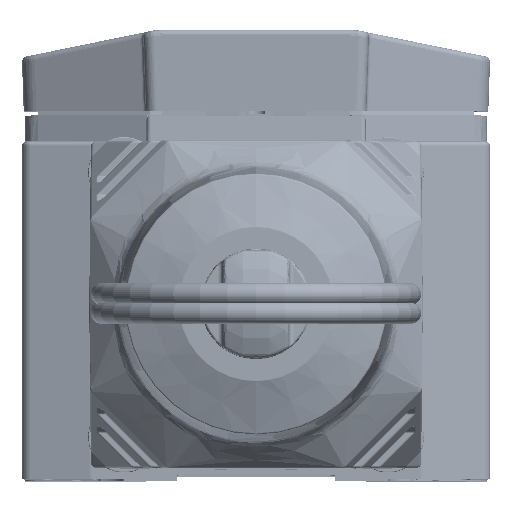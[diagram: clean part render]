
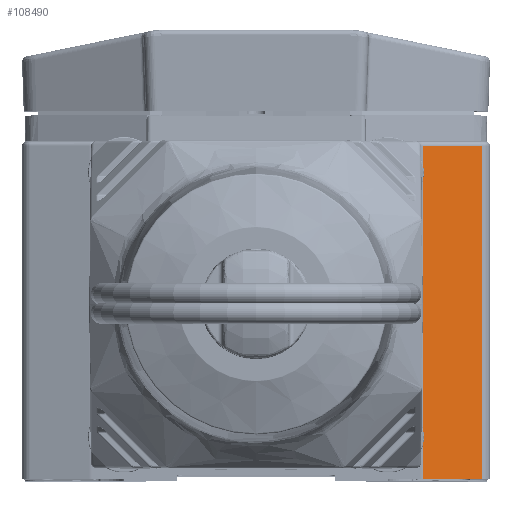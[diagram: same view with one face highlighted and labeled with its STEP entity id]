
A CAD part, top view. The second image highlights one B-rep face of the part: STEP entity #108490.
In plain terms, the highlighted planar face has unit normal (0.259, 0, 0.966).
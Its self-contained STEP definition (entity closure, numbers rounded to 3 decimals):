
#16948=DIRECTION('',(-0.966,0.,0.259));
#16949=VECTOR('',#16948,5.561);
#16950=CARTESIAN_POINT('',(20.499,-15.85,-1.473));
#16951=LINE('',#16950,#16949);
#19816=DIRECTION('',(0.966,0.,-0.259));
#19817=VECTOR('',#19816,5.561);
#19818=CARTESIAN_POINT('',(15.127,14.45,-0.034));
#19819=LINE('',#19818,#19817);
#19823=DIRECTION('',(0.,-1.,0.));
#19824=VECTOR('',#19823,30.3);
#19825=CARTESIAN_POINT('',(20.499,14.45,-1.473));
#19826=LINE('',#19825,#19824);
#19830=DIRECTION('',(0.,1.,0.));
#19831=VECTOR('',#19830,30.3);
#19832=CARTESIAN_POINT('',(15.127,-15.85,-0.034));
#19833=LINE('',#19832,#19831);
#83976=CARTESIAN_POINT('',(15.127,14.45,-0.034));
#83977=CARTESIAN_POINT('',(20.499,14.45,-1.473));
#83978=VERTEX_POINT('',#83976);
#83979=VERTEX_POINT('',#83977);
#84062=CARTESIAN_POINT('',(20.499,-15.85,-1.473));
#84064=VERTEX_POINT('',#84062);
#84776=CARTESIAN_POINT('',(15.127,-15.85,-0.034));
#84777=VERTEX_POINT('',#84776);
#108477=CARTESIAN_POINT('',(21.,14.85,-1.608));
#108478=DIRECTION('',(-0.259,0.,-0.966));
#108479=DIRECTION('',(-0.966,0.,0.259));
#108480=AXIS2_PLACEMENT_3D('',#108477,#108478,#108479);
#108481=PLANE('',#108480);
#108483=ORIENTED_EDGE('',*,*,#108482,.T.);
#108484=ORIENTED_EDGE('',*,*,#108462,.T.);
#108485=ORIENTED_EDGE('',*,*,#103780,.T.);
#108487=ORIENTED_EDGE('',*,*,#108486,.T.);
#108488=EDGE_LOOP('',(#108483,#108484,#108485,#108487));
#108489=FACE_OUTER_BOUND('',#108488,.F.);
#103780=EDGE_CURVE('',#84064,#84777,#16951,.T.);
#108462=EDGE_CURVE('',#83979,#84064,#19826,.T.);
#108482=EDGE_CURVE('',#83978,#83979,#19819,.T.);
#108486=EDGE_CURVE('',#84777,#83978,#19833,.T.);
#108490=ADVANCED_FACE('',(#108489),#108481,.F.);
